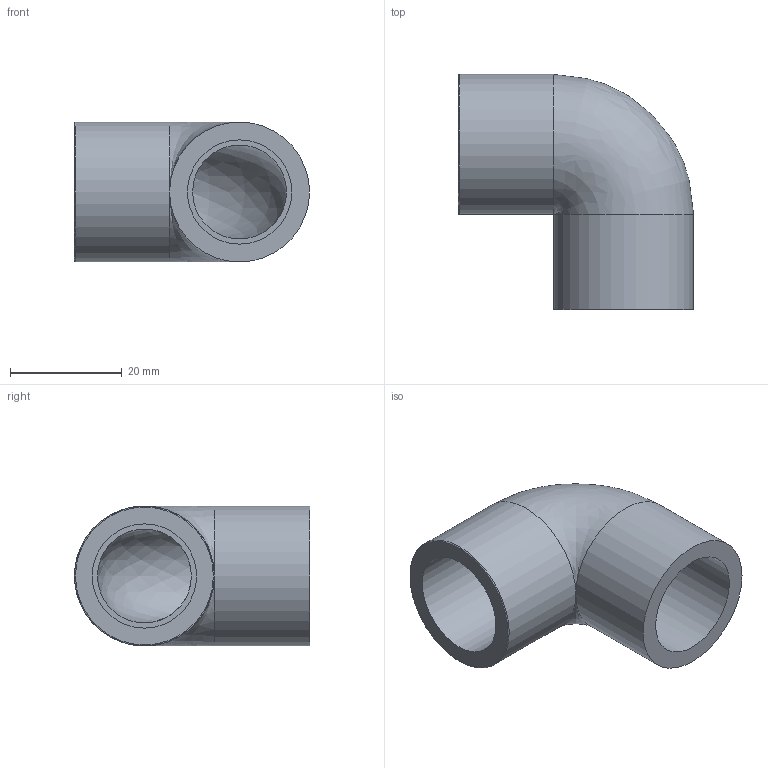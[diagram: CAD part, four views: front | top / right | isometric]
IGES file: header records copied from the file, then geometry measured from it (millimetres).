
Global section: file name: 050501005.ipt; native system: Autodesk Inventor 2015; preprocessor: unknown; author: KIM; date: 20171207.164633; units: millimetre
Bounding box: 42 x 42 x 25 mm (x, y, z)
Volume: 12967.5 mm3; surface area: 7774.6 mm2
Topology: 1 solids, 1 shells, 11 faces, 24 edges, 15 vertices
Faces by surface type: revolution 4, plane 4, cylinder 2, bspline 1
Full cylindrical faces by diameter (mm): 25 x2
